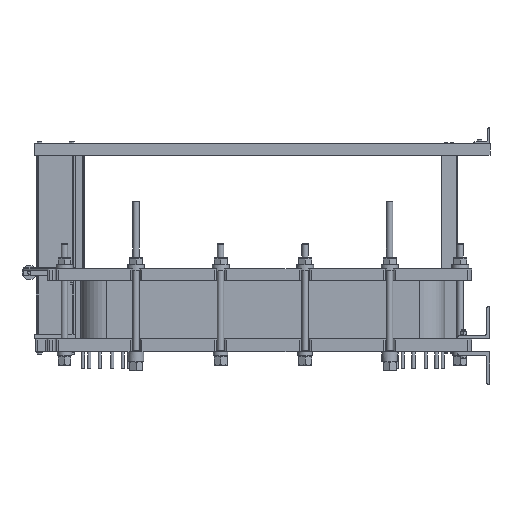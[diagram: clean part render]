
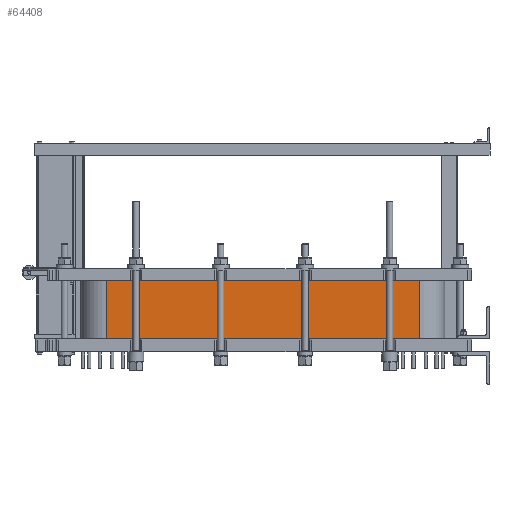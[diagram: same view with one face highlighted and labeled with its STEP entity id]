
A CAD part, left-side view. The second image highlights one B-rep face of the part: STEP entity #64408.
In plain terms, the highlighted planar face has unit normal (-1, 0, 0).
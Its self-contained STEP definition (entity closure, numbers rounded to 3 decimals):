
#35049=CARTESIAN_POINT('',(-375.0,-967.0,0.0));
#35050=VERTEX_POINT('',#35049);
#35058=CARTESIAN_POINT('',(-375.,967.0,0.0));
#35059=VERTEX_POINT('',#35058);
#35060=CARTESIAN_POINT('',(-375.0,-967.0,0.0));
#35061=DIRECTION('',(0.0,1.0,0.0));
#35062=VECTOR('',#35061,1934.0);
#35063=LINE('',#35060,#35062);
#35064=EDGE_CURVE('',#35050,#35059,#35063,.T.);
#64323=CARTESIAN_POINT('',(-375.,967.0,362.5));
#64324=VERTEX_POINT('',#64323);
#64334=CARTESIAN_POINT('',(-375.,967.0,0.0));
#64335=DIRECTION('',(0.0,0.0,1.0));
#64336=VECTOR('',#64335,362.5);
#64337=LINE('',#64334,#64336);
#64338=EDGE_CURVE('',#35059,#64324,#64337,.T.);
#64372=CARTESIAN_POINT('',(-375.0,-967.0,362.5));
#64373=VERTEX_POINT('',#64372);
#64381=CARTESIAN_POINT('',(-375.0,-967.0,0.0));
#64382=DIRECTION('',(0.0,0.0,1.0));
#64383=VECTOR('',#64382,362.5);
#64384=LINE('',#64381,#64383);
#64385=EDGE_CURVE('',#35050,#64373,#64384,.T.);
#64392=CARTESIAN_POINT('',(-375.0,-967.0,0.0));
#64393=DIRECTION('',(-1.0,0.0,0.0));
#64394=DIRECTION('',(0.0,0.0,1.0));
#64395=AXIS2_PLACEMENT_3D('',#64392,#64393,#64394);
#64396=PLANE('',#64395);
#64397=CARTESIAN_POINT('',(-375.,967.0,362.5));
#64398=DIRECTION('',(0.0,-1.0,0.0));
#64399=VECTOR('',#64398,1934.0);
#64400=LINE('',#64397,#64399);
#64401=EDGE_CURVE('',#64324,#64373,#64400,.T.);
#64402=ORIENTED_EDGE('',*,*,#64401,.F.);
#64403=ORIENTED_EDGE('',*,*,#64338,.F.);
#64404=ORIENTED_EDGE('',*,*,#35064,.F.);
#64405=ORIENTED_EDGE('',*,*,#64385,.T.);
#64406=EDGE_LOOP('',(#64402,#64403,#64404,#64405));
#64407=FACE_OUTER_BOUND('',#64406,.T.);
#64408=ADVANCED_FACE('',(#64407),#64396,.T.);
